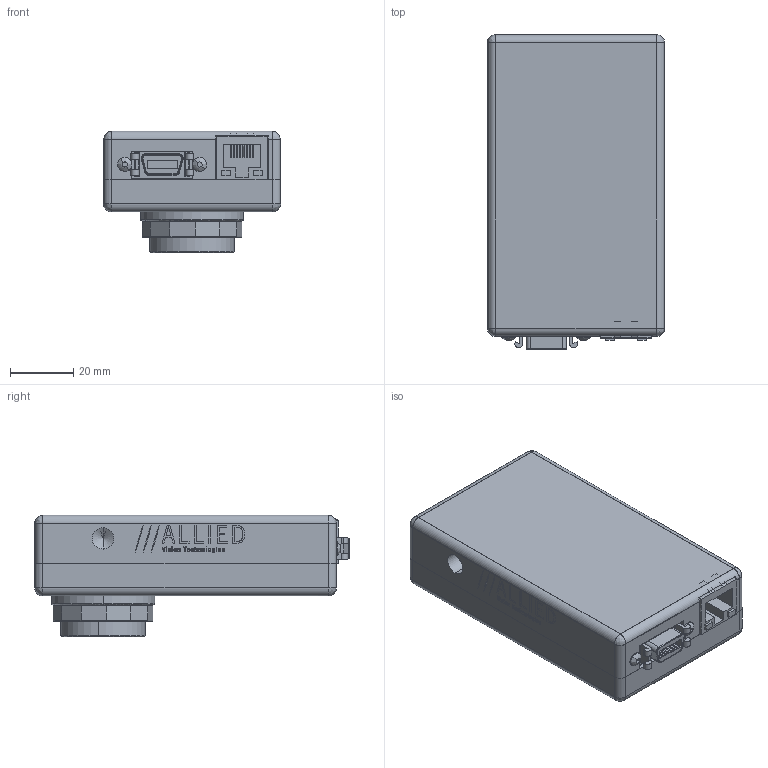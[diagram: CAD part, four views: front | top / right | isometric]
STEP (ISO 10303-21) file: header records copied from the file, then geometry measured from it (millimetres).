
FILE_DESCRIPTION (( 'STEP AP214' ), '1' );
FILE_NAME ('GS2450C.STEP', '2013-07-31T20:44:02', ( '' ), ( '' ), 'SwSTEP 2.0', 'SolidWorks 2013', '' );
FILE_SCHEMA (( 'AUTOMOTIVE_DESIGN' ));
Length unit declared in the file: millimetre
Products named in the file (25): 440002-IR CUT FILTER 22MM DIA; 110054AB-IR FILTER SUPPORT; 110078A-GB MOUNT; 110003AC-CV CMOUNT RING; 140008-washer spring lock #4; 110094A-GB CCD GASKET; 140027-SCREW BUTTON M3x6 SS; 110031A-B EC-CCD LOCKING RING; 740101-GS2450C LABEL PRINT; 110089A-GS FRONT; 140059-EMI GASKET FOR GS; 110090B-GS BACK RA_Default Logo; 740084B-GS SERIES LABEL; 140056-SCREW SOCKET CAP HEX M2.5X10 BLACK; 140057-SCREW BUTTON SKT CAP M2.5X10 SS; 02-2209B-GB2450C; 140055-WASHER SPRING LOCK M2.5 BLACK; 220118-SONY ICX625AQA; SONY ICX625 BODY; GS2450C; SONY ICX625 WINDOW; 200085B-GB2450-LS-RA; 260039-3M 10214-55G3PC; 260036-HALO HFJ11-1G16E-L12RL; 100097A-IR FILTER ASSEMBLY 0.75 INCH
Assembly tree (33 placements, depth 4):
  GS2450C
    140055-WASHER SPRING LOCK M2.5 BLACK  x4
    140056-SCREW SOCKET CAP HEX M2.5X10 BLACK  x4
    110090B-GS BACK RA_Default Logo
    110089A-GS FRONT
    02-2209B-GB2450C
      110031A-B EC-CCD LOCKING RING
      140027-SCREW BUTTON M3x6 SS  x2
      110094A-GB CCD GASKET
      140008-washer spring lock #4  x2
      110003AC-CV CMOUNT RING
      110078A-GB MOUNT
      100097A-IR FILTER ASSEMBLY 0.75 INCH
        110054AB-IR FILTER SUPPORT
        440002-IR CUT FILTER 22MM DIA
      200085B-GB2450-LS-RA
        260036-HALO HFJ11-1G16E-L12RL
        260039-3M 10214-55G3PC
      220118-SONY ICX625AQA
        SONY ICX625 WINDOW
        SONY ICX625 BODY
    140057-SCREW BUTTON SKT CAP M2.5X10 SS  x2
    740084B-GS SERIES LABEL
    140059-EMI GASKET FOR GS
    740101-GS2450C LABEL PRINT
Bounding box: 55.88 x 99.31 x 38.34 mm (x, y, z)
Volume: 57496.6 mm3; surface area: 74445.7 mm2
Topology: 88 solids, 88 shells, 3699 faces, 9563 edges, 6202 vertices
Faces by surface type: plane 2161, bspline 841, cylinder 473, cone 224
Entity records: 179326 total; most frequent: CARTESIAN_POINT 55808, ORIENTED_EDGE 18486, DIRECTION 14188, EDGE_CURVE 9243, VECTOR 6452, LINE 6452, VERTEX_POINT 6033, EDGE_LOOP 3900
